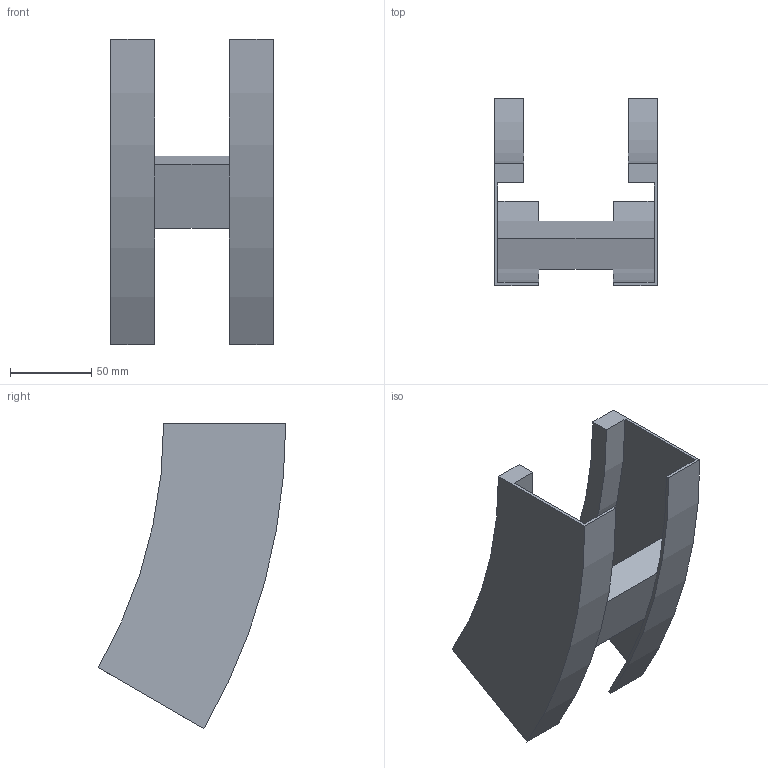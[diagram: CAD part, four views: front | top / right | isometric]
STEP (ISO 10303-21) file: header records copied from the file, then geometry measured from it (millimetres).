
FILE_DESCRIPTION (( 'STEP AP214' ), '1' );
FILE_NAME ('B2X32B3C100XX.step', '2025-03-20T10:02:38', ( '' ), ( '' ), 'SwSTEP 2.0', 'SolidWorks 2023', '' );
FILE_SCHEMA (( 'AUTOMOTIVE_DESIGN' ));
Length unit declared in the file: millimetre
Products named in the file (3): B2X32B3C100XX; TRAVERSINO_100; B2_LONGH.SALITA_30°_H75_R300
Assembly tree (3 placements, depth 2):
  B2X32B3C100XX
    B2_LONGH.SALITA_30°_H75_R300  x2
    TRAVERSINO_100
Bounding box: 100 x 115.19 x 187.5 mm (x, y, z)
Volume: 211881.9 mm3; surface area: 99068.8 mm2
Topology: 3 solids, 3 shells, 26 faces, 60 edges, 40 vertices
Faces by surface type: plane 18, cylinder 8
Entity records: 544 total; most frequent: DIRECTION 88, CARTESIAN_POINT 82, ORIENTED_EDGE 72, EDGE_CURVE 36, AXIS2_PLACEMENT_3D 30, VECTOR 28, LINE 28, VERTEX_POINT 24
